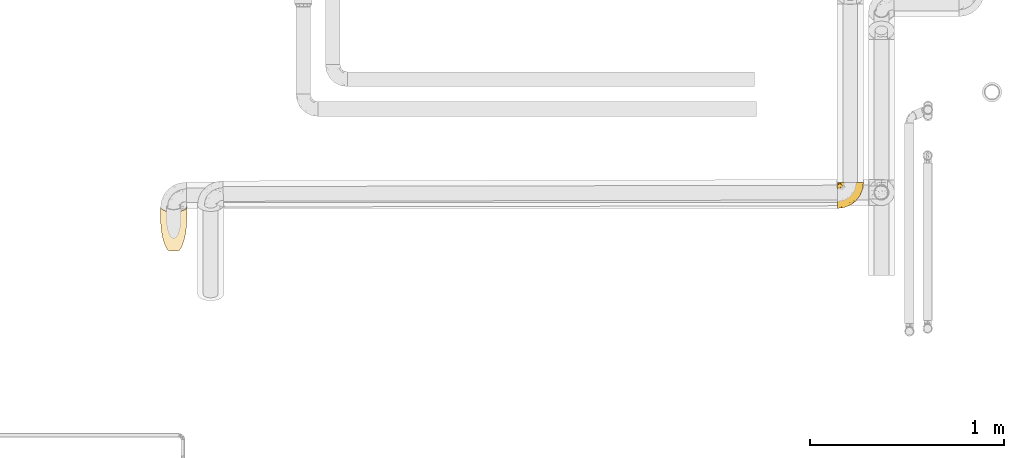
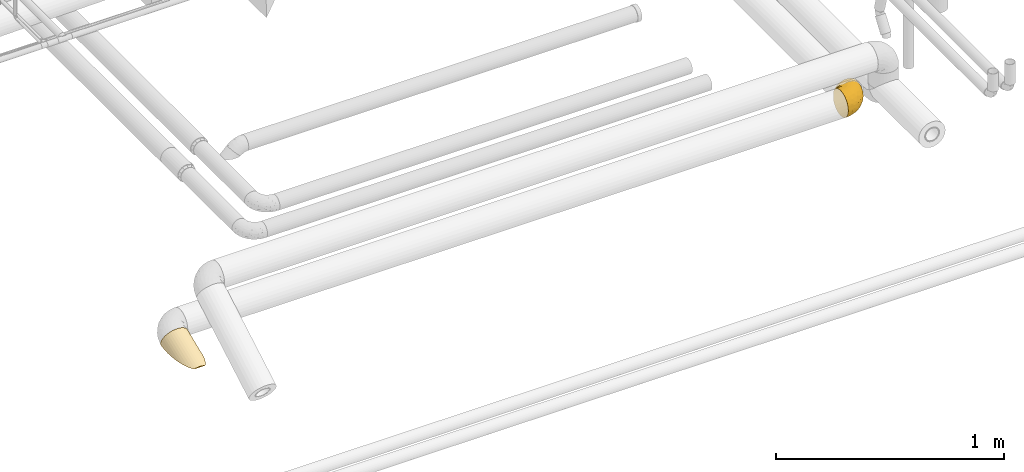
# One storey, part 19 of 156: 2 coverings.
"""IFC2X3 building model written with IfcOpenShell, lengths in millimetres."""

from ifc_helpers import new_model, entity, si_unit, converted_unit, derived_unit, direction, frame, origin_with_axes, place, context, subcontext, project, spatial, open_shell, faceted_brep, surface_model, source, transform, mapped, element, save


model = new_model("IFC2X3")

# Units and contexts
model_context = context("Model", 3, precision=0.01, world=frame((0.0, 4.29681676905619e-09, 0.0)), true_north=direction((4.01073788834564e-13, 1.0)))
plan_context = context("Plan", 3, precision=0.01, world=frame((0.0, 4.29681676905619e-09, 0.0)), true_north=direction((4.01073788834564e-13, 1.0)))
body_context = subcontext(model_context, "Body", "Model", "MODEL_VIEW")
ifc_project = project(units=[converted_unit("PLANEANGLEUNIT", "DEGREE", entity("IfcPositiveLengthMeasure", 0.0174532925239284), si_unit("PLANEANGLEUNIT", "RADIAN"), dimensions=[0, 0, 0, 0, 0, 0, 0]), si_unit("AREAUNIT", "SQUARE_METRE"), si_unit("LENGTHUNIT", "METRE", prefix="MILLI"), si_unit("MASSUNIT", "GRAM", prefix="KILO"), si_unit("POWERUNIT", "WATT"), si_unit("PRESSUREUNIT", "PASCAL", prefix="KILO"), si_unit("FORCEUNIT", "NEWTON", prefix="KILO"), si_unit("ELECTRICVOLTAGEUNIT", "VOLT"), si_unit("ELECTRICCURRENTUNIT", "AMPERE"), si_unit("THERMODYNAMICTEMPERATUREUNIT", "DEGREE_CELSIUS"), si_unit("TIMEUNIT", "SECOND"), si_unit("VOLUMEUNIT", "CUBIC_METRE"), derived_unit("LINEARVELOCITYUNIT", [(si_unit("LENGTHUNIT", "METRE"), 1), (si_unit("TIMEUNIT", "SECOND"), -1)]), derived_unit("VOLUMETRICFLOWRATEUNIT", [(si_unit("VOLUMEUNIT", "CUBIC_METRE"), 1), (si_unit("TIMEUNIT", "SECOND"), -1)]), derived_unit("THERMALTRANSMITTANCEUNIT", [(si_unit("POWERUNIT", "WATT"), 1), (si_unit("THERMODYNAMICTEMPERATUREUNIT", "KELVIN"), -1), (si_unit("AREAUNIT", "SQUARE_METRE"), -1)]), derived_unit("SOUNDPRESSUREUNIT", [(si_unit("PRESSUREUNIT", "PASCAL"), 1)])], contexts=[model_context, plan_context])

# Site, building, storey
site_placement = place(None, frame((0.0, -4.29681676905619e-09, 0.0), z_axis=(0.0, 0.0, 1.0), x_axis=(1.0, 0.0, 0.0)))
site = spatial("IfcSite", under=ifc_project, at=site_placement, CompositionType="ELEMENT")
building_placement = place(site_placement, frame((0.0, 4.29681676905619e-09, 0.0), z_axis=(0.0, 0.0, 1.0), x_axis=(1.0, 0.0, 0.0)))
building = spatial("IfcBuilding", under=site, at=building_placement, Name="mc-building", CompositionType="ELEMENT")
storey_placement = place(building_placement, frame((0.0, 0.0, 205200.0), z_axis=(0.0, 0.0, 1.0), x_axis=(1.0, 0.0, 0.0)))
storey = spatial("IfcBuildingStorey", under=building, at=storey_placement, Name="Nivå D + 1,2 m", CompositionType="ELEMENT", Elevation=205200.0)

# Coverings
shared_shape = source(origin_with_axes(), body_context, "Body", "SurfaceModel", [
    surface_model("IfcShellBasedSurfaceModel", [(13.1732, 65.0, 66.20209), (25.83774, 65.0, 62.35913), (37.50754, 65.0, 56.11983), (0.0, 65.0, 67.5), (62.36357, 65.0, 25.82703), (66.2036, 65.0, 13.1656), (47.7349, 65.0, 47.72452), (56.12755, 65.0, 37.49598), (66.20209, 65.0, -13.1732), (-64.81475, 65.0, -18.84935), (67.5, 65.0, 0.0), (56.11983, 65.0, -37.50754), (62.35913, 65.0, -25.83774), (47.72452, 65.0, -47.7349), (37.49598, 65.0, -56.12755), (25.82703, 65.0, -62.36357), (-40.52239, 65.0, -53.98321), (-51.09064, 65.0, -44.11345), (-59.31419, 65.0, -32.21921), (-65.0, 47.11836, -48.33333), (-65.0, 33.25277, -58.74099), (-65.0, 17.19351, -65.27353), (-65.0, -58.45672, -33.75), (-65.0, -17.47029, -65.19999), (-65.0, -33.75, -58.45672), (-65.0, -67.5, 0.0), (-65.0, -47.72971, -47.72971), (-65.0, -65.19999, -17.47029), (-65.0, -33.75, 58.45672), (-65.0, -47.72971, 47.72971), (-65.0, -17.47029, 65.19999), (-65.0, 0.0, 67.5), (-65.0, -58.45672, 33.75), (-65.0, -65.19999, 17.47029), (-65.0, 64.81475, -18.84935), (-65.0, 64.81475, 18.84935), (-64.86901, 64.86901, 18.84935), (-64.86901, 64.86901, -18.84935), (-64.81475, 65.0, 18.84935), (-62.35297, 53.22925, -41.88204), (-63.78423, 60.63473, -29.99667), (-59.45918, 54.28289, -41.88204), (-51.69965, 42.79725, -55.00915), (-58.92632, 41.28656, -53.98417), (-65.0, 57.87557, -34.73714), (-64.97489, 64.82515, -18.84935), (-60.99561, 60.00362, -33.50592), (-62.83434, 60.76841, -30.4404), (-64.90176, 64.85544, -18.84935), (-50.86682, 28.04405, -62.52499), (-57.92381, 24.04777, -63.29908), (-50.90167, 14.37918, -66.34141), (-37.08653, 31.39033, -64.04773), (-29.58182, 11.99295, -67.5), (-40.36853, 19.80167, -66.13096), (-55.46376, 1.89688, -67.5), (-54.1914, 53.04137, -46.55035), (-28.09443, 65.0, -61.37551), (-23.48796, 51.53459, -64.03169), (-35.44219, 58.51372, -57.87452), (-14.37712, 65.0, -65.95111), (0.0, 65.0, -67.5), (-1.89688, 55.46376, -67.5), (-19.03806, 19.03806, -67.5), (-28.84083, 40.49015, -64.04563), (-45.93357, 58.13982, -50.54557), (-64.83555, 64.94978, -18.84935), (-43.55475, 44.96694, -57.31565), (-4.94783, 40.12558, -67.5), (-64.85228, 64.9094, -18.84935), (-55.95504, 62.1673, -38.38718), (-59.35288, 60.73167, -34.6609), (-37.17686, 51.38247, -58.29815), (-49.05026, 54.8073, -49.33215), (-11.99295, 29.58182, -67.5), (-64.9345, 64.84188, -18.84935), (-40.12558, 4.94783, -67.5), (-65.0, 0.0, -67.5), (-52.74634, 2.4374, -67.5), (-42.51157, -9.52295, -66.2671), (62.98517, 30.70648, 0.0), (60.34861, 32.11006, -19.59988), (7.28209, 26.69247, -65.37446), (17.51571, 46.37925, -64.59456), (25.45053, 30.47784, -59.53215), (-9.86721, -24.12514, -54.51842), (-12.17277, -41.13061, -41.0914), (-38.26551, -37.66767, -53.55135), (-32.07934, -19.65533, -62.36187), (-9.01246, -1.18966, -63.9192), (38.39188, 36.73619, -52.6938), (30.43395, 48.7077, -59.53215), (-49.4847, -21.90434, -63.359), (28.69165, -28.69165, 0.0), (38.50326, -14.42084, -16.45739), (49.74837, -1.25, 0.0), (13.1656, 65.0, -66.2036), (-26.34544, -2.34013, -66.30486), (-28.9987, -57.16772, -25.83113), (-40.01142, -50.88785, -41.0914), (-40.23864, -63.93244, -12.73067), (13.27406, -37.00874, -22.67012), (18.34903, -3.39087, -52.18245), (35.48999, 13.46262, -47.52341), (28.03747, -10.89182, -39.04005), (-2.47392, 52.56279, -67.5), (13.31742, 11.06376, -60.42055), (48.33699, 35.26235, -42.82742), (1.25, -49.74837, 0.0), (55.58243, 33.90777, -31.82524), (47.1962, 10.97433, -31.82591), (10.54857, -30.74404, -36.21718), (1.99991, -27.22627, -46.43081), (-14.75381, -56.30503, -12.67322), (-7.01775, -49.35414, -23.6696), (51.32465, 7.6704, -19.29111), (-30.70648, -62.98517, 0.0), (0.244, 12.31909, -64.81242), (3.6701, -5.45972, -58.66435), (36.98055, -9.37937, -28.42458), (48.52829, 33.96524, 42.18547), (51.34601, 20.59434, 31.81466), (57.75615, 44.0433, 31.81466), (-28.34115, -60.77084, 14.13005), (-16.26073, -52.66703, 25.83113), (-42.88385, -60.42696, 25.83113), (37.5083, -13.65738, 20.81995), (22.2387, 22.99208, 59.52614), (16.82988, 43.52884, 64.59175), (5.27267, 25.31169, 65.6474), (35.12366, 13.6505, 47.93511), (15.62004, -0.76277, 55.06473), (25.58961, -9.33201, 42.81638), (-34.31666, -49.51181, 41.0914), (-2.14331, -36.32511, 40.18049), (-17.725, -29.97609, 53.55135), (-5.8464, -51.68872, 14.94009), (14.49533, -38.60032, 15.96281), (39.0394, -2.37839, 32.87761), (-42.65822, -9.03699, 66.36346), (-39.32482, -22.1268, 62.36187), (-52.74634, 2.4374, 67.5), (18.51015, -28.28032, 30.53115), (-42.63776, -38.70783, 53.55135), (52.44199, 9.85636, 19.0918), (61.41574, 36.47263, 19.59063), (39.29703, 37.63428, 52.17338), (28.75854, 40.82432, 59.5265), (-0.80851, -10.86712, 58.08848), (-25.06949, -14.2506, 63.18685), (-6.08758, 12.63645, 66.07007), (-29.58182, 11.99295, 67.5), (-27.583, -2.4399, 66.40218), (-40.12558, 4.94783, 67.5), (-2.47392, 52.56279, 67.5), (-4.94783, 40.12558, 67.5), (8.13231, 9.85971, 62.04196), (4.6081, -20.53967, 50.05704), (-11.99295, 29.58182, 67.5), (-19.03806, 19.03806, 67.5), (-12.13012, -4.71198, 63.64217), (-65.0, 17.19351, 65.27353), (-55.46376, 1.89688, 67.5), (-51.31051, 50.10809, 50.51452), (-58.83063, 56.06256, 40.31262), (-53.07544, 43.62194, 53.98417), (-61.39668, 53.48595, 41.88204), (-59.33203, 41.18634, 53.98417), (-65.0, 47.11836, 48.33333), (-65.0, 33.25277, 58.74099), (-38.67692, 30.21324, 64.02579), (-40.80843, 18.77841, 66.26938), (-53.18292, 27.23963, 62.52499), (-62.39323, 61.71268, 29.30964), (-62.71992, 60.35042, 31.2673), (-24.35909, 37.3903, 65.60842), (-55.876, 57.84764, 41.27918), (-48.33586, 52.86998, 50.85179), (-52.15697, 58.33043, 44.75633), (-65.0, 57.87557, 34.73714), (-50.72259, 13.73618, 66.46323), (-63.72097, 60.14876, 30.95628), (-23.37818, 51.86775, 64.03271), (-1.89688, 55.46376, 67.5), (-14.37401, 65.0, 65.95178), (-38.9734, 49.10623, 58.01476), (-28.09151, 65.0, 61.37685), (-40.51981, 65.0, 53.98514), (-36.16929, 55.0609, 58.01476), (-61.49541, 62.05581, 30.08872), (-64.85228, 64.9094, 18.84935), (-46.94651, 59.30387, 49.33434), (-59.31267, 65.0, 32.22201), (-64.83555, 64.94978, 18.84935), (-57.76525, 62.98421, 35.37213), (-51.08854, 65.0, 44.11588), (-59.8704, 62.17048, 32.53464), (-45.47025, 40.87928, 58.33251), (-64.9094, 64.85228, 18.84935), (-64.94978, 64.83555, 18.84935)], [open_shell([[[0, 1, 2]], [[3, 0, 2]], [[4, 5, 6]], [[6, 7, 4]], [[8, 9, 10]], [[11, 8, 12]], [[8, 13, 9]], [[14, 15, 13]], [[13, 8, 11]], [[16, 17, 9]], [[18, 9, 17]], [[10, 9, 5]], [[19, 20, 21]], [[22, 23, 24]], [[23, 22, 25]], [[22, 24, 26]], [[27, 25, 22]], [[28, 25, 29]], [[30, 31, 28]], [[32, 25, 33]], [[25, 32, 29]], [[34, 35, 36]], [[37, 34, 36]], [[38, 9, 36]], [[37, 36, 9]], [[39, 40, 41]], [[42, 43, 41]], [[44, 34, 45]], [[39, 43, 19]], [[46, 47, 48]], [[43, 49, 50]], [[21, 50, 51]], [[52, 53, 54]], [[51, 50, 49]], [[21, 51, 55]], [[41, 56, 42]], [[57, 58, 59]], [[44, 39, 19]], [[60, 61, 62]], [[63, 52, 64]], [[65, 16, 59]], [[16, 65, 17]], [[43, 20, 19]], [[43, 42, 49]], [[66, 9, 18]], [[46, 56, 41]], [[52, 67, 64]], [[68, 58, 62]], [[69, 70, 71]], [[18, 70, 66]], [[60, 62, 58]], [[60, 58, 57]], [[51, 49, 54]], [[58, 72, 59]], [[18, 17, 70]], [[71, 73, 56]], [[42, 52, 49]], [[67, 42, 56]], [[72, 67, 73]], [[45, 40, 44]], [[43, 39, 41]], [[56, 46, 71]], [[67, 56, 73]], [[69, 66, 70]], [[70, 73, 71]], [[64, 72, 58]], [[42, 67, 52]], [[64, 68, 74]], [[40, 45, 75]], [[55, 51, 76]], [[55, 77, 21]], [[54, 49, 52]], [[71, 37, 69]], [[76, 51, 54]], [[47, 41, 40]], [[37, 71, 46]], [[67, 72, 64]], [[65, 59, 72]], [[72, 73, 65]], [[57, 59, 16]], [[73, 70, 65]], [[17, 65, 70]], [[40, 75, 47]], [[44, 40, 39]], [[48, 37, 46]], [[46, 41, 47]], [[47, 75, 48]], [[21, 20, 50]], [[43, 50, 20]], [[53, 52, 63]], [[53, 76, 54]], [[68, 64, 58]], [[74, 63, 64]], [[78, 79, 23]], [[78, 76, 79]], [[8, 80, 81]], [[82, 83, 84]], [[85, 86, 87]], [[85, 88, 89]], [[90, 84, 91]], [[79, 92, 23]], [[93, 94, 95]], [[15, 83, 96]], [[63, 89, 97]], [[12, 8, 81]], [[98, 22, 99]], [[27, 100, 25]], [[94, 93, 101]], [[22, 98, 27]], [[22, 26, 99]], [[24, 87, 26]], [[92, 87, 24]], [[102, 103, 104]], [[61, 96, 105]], [[84, 103, 106]], [[13, 11, 107]], [[90, 13, 107]], [[93, 108, 101]], [[109, 81, 110]], [[91, 83, 15]], [[96, 83, 105]], [[111, 86, 112]], [[113, 100, 98]], [[101, 108, 113]], [[114, 86, 111]], [[95, 94, 115]], [[113, 108, 116]], [[90, 103, 84]], [[115, 80, 95]], [[12, 109, 11]], [[117, 118, 89]], [[8, 10, 80]], [[107, 109, 110]], [[102, 106, 103]], [[82, 68, 83]], [[85, 87, 88]], [[14, 91, 15]], [[99, 87, 86]], [[117, 74, 82]], [[101, 111, 119]], [[81, 115, 110]], [[97, 88, 79]], [[112, 104, 111]], [[82, 106, 117]], [[106, 82, 84]], [[14, 13, 90]], [[83, 91, 84]], [[90, 91, 14]], [[90, 107, 103]], [[107, 110, 103]], [[104, 103, 110]], [[119, 104, 110]], [[104, 119, 111]], [[87, 99, 26]], [[98, 99, 86]], [[23, 77, 78]], [[97, 79, 76]], [[79, 88, 92]], [[97, 76, 53]], [[88, 97, 89]], [[87, 92, 88]], [[24, 23, 92]], [[118, 106, 102]], [[106, 118, 117]], [[100, 113, 116]], [[114, 113, 98]], [[25, 100, 116]], [[98, 100, 27]], [[112, 118, 102]], [[63, 97, 53]], [[85, 89, 118]], [[89, 63, 117]], [[115, 81, 80]], [[86, 114, 98]], [[101, 113, 114]], [[11, 109, 107]], [[12, 81, 109]], [[83, 68, 105]], [[74, 117, 63]], [[74, 68, 82]], [[119, 115, 94]], [[115, 119, 110]], [[101, 119, 94]], [[114, 111, 101]], [[112, 86, 85]], [[118, 112, 85]], [[104, 112, 102]], [[120, 121, 122]], [[25, 116, 123]], [[123, 124, 125]], [[95, 126, 93]], [[127, 128, 129]], [[130, 131, 132]], [[133, 134, 135]], [[136, 137, 124]], [[132, 138, 130]], [[108, 93, 137]], [[139, 30, 140]], [[30, 139, 141]], [[142, 137, 126]], [[143, 140, 28]], [[28, 29, 143]], [[125, 32, 33]], [[130, 138, 121]], [[32, 125, 133]], [[28, 140, 30]], [[93, 126, 137]], [[121, 144, 145]], [[143, 133, 135]], [[120, 6, 146]], [[138, 126, 144]], [[5, 4, 145]], [[6, 2, 146]], [[128, 1, 0]], [[145, 4, 122]], [[10, 5, 80]], [[1, 147, 2]], [[148, 149, 135]], [[32, 133, 29]], [[150, 151, 152]], [[128, 127, 147]], [[153, 139, 152]], [[130, 121, 120]], [[0, 154, 128]], [[144, 80, 145]], [[129, 128, 155]], [[147, 127, 146]], [[80, 5, 145]], [[138, 144, 121]], [[131, 127, 156]], [[7, 122, 4]], [[134, 133, 124]], [[135, 134, 157]], [[142, 132, 134]], [[136, 124, 123]], [[142, 124, 137]], [[157, 132, 131]], [[7, 6, 120]], [[145, 122, 121]], [[120, 122, 7]], [[120, 146, 130]], [[146, 127, 130]], [[131, 130, 127]], [[156, 127, 129]], [[148, 135, 157]], [[150, 158, 159]], [[129, 150, 156]], [[133, 143, 29]], [[140, 143, 135]], [[141, 139, 153]], [[141, 31, 30]], [[152, 149, 160]], [[149, 139, 140]], [[152, 160, 150]], [[126, 95, 144]], [[151, 153, 152]], [[80, 144, 95]], [[142, 126, 138]], [[124, 142, 134]], [[139, 149, 152]], [[135, 149, 140]], [[33, 25, 123]], [[133, 125, 124]], [[33, 123, 125]], [[136, 116, 108]], [[116, 136, 123]], [[108, 137, 136]], [[158, 150, 129]], [[148, 156, 160]], [[150, 159, 151]], [[160, 156, 150]], [[132, 157, 134]], [[148, 157, 131]], [[156, 148, 131]], [[148, 160, 149]], [[2, 147, 146]], [[1, 128, 147]], [[154, 0, 3]], [[154, 155, 128]], [[142, 138, 132]], [[129, 155, 158]], [[161, 31, 162]], [[163, 164, 165]], [[165, 166, 167]], [[167, 168, 169]], [[170, 171, 151]], [[170, 165, 172]], [[164, 173, 174]], [[175, 170, 159]], [[167, 169, 172]], [[176, 177, 178]], [[164, 166, 165]], [[166, 179, 168]], [[172, 180, 171]], [[181, 166, 174]], [[182, 183, 184]], [[185, 178, 177]], [[186, 187, 188]], [[36, 189, 190]], [[175, 182, 185]], [[188, 187, 191]], [[192, 38, 193]], [[182, 175, 155]], [[169, 161, 172]], [[194, 195, 192]], [[184, 183, 3]], [[191, 187, 195]], [[163, 176, 164]], [[185, 182, 188]], [[189, 176, 196]], [[186, 182, 184]], [[180, 162, 153]], [[35, 179, 181]], [[185, 177, 197]], [[165, 167, 172]], [[155, 183, 182]], [[166, 168, 167]], [[175, 185, 197]], [[175, 159, 158]], [[36, 173, 189]], [[173, 176, 189]], [[171, 180, 153]], [[162, 180, 161]], [[161, 180, 172]], [[151, 159, 170]], [[172, 171, 170]], [[171, 153, 151]], [[197, 163, 165]], [[177, 176, 163]], [[165, 170, 197]], [[197, 170, 175]], [[197, 177, 163]], [[178, 185, 191]], [[194, 178, 191]], [[196, 193, 190]], [[195, 194, 191]], [[192, 193, 194]], [[176, 178, 196]], [[178, 194, 196]], [[193, 196, 194]], [[190, 189, 196]], [[173, 164, 176]], [[36, 198, 173]], [[199, 181, 174]], [[174, 173, 198]], [[199, 174, 198]], [[166, 164, 174]], [[35, 181, 199]], [[179, 166, 181]], [[188, 182, 186]], [[191, 185, 188]], [[155, 175, 158]], [[5, 2, 6]], [[192, 9, 38]], [[15, 96, 13]], [[35, 168, 179]], [[168, 161, 169]], [[184, 187, 186]], [[21, 23, 31]], [[23, 21, 77]], [[3, 2, 5]], [[184, 3, 5]], [[195, 187, 192]], [[9, 192, 187]], [[184, 9, 187]], [[9, 184, 5]], [[16, 9, 60]], [[96, 61, 60]], [[57, 16, 60]], [[60, 9, 96]], [[9, 13, 96]], [[35, 34, 44]], [[35, 44, 19]], [[35, 19, 21]], [[35, 21, 168]], [[21, 161, 168]], [[21, 31, 161]], [[23, 25, 31]], [[25, 28, 31]]])]),
])
covering_1_placement = place(storey_placement, frame((329697.42979, 460512.28647, 4048.81464), z_axis=(0.0, -0.00259999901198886, 0.999996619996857), x_axis=(1.0, 0.0, 0.0)))
element("IfcCovering", 1, at=covering_1_placement, inside=storey, Name="BI10T - Cellegummi 18-32 mm kalde rør", PredefinedType="INSULATION", context=body_context, shape_type="MappedRepresentation", body=[
    mapped(shared_shape, transform((0.0, 0.0, 0.0), scale=1.0)),
])
covering_2_placement = place(storey_placement, frame((326217.42979, 460251.23866, 3943.34448), z_axis=(0.0, -0.37460689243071, 0.927183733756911), x_axis=(0.0, 0.927183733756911, 0.37460689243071)))
element("IfcCovering", 2, at=covering_2_placement, inside=storey, Name="BI10T - Cellegummi 18-32 mm kalde rør", PredefinedType="INSULATION", context=body_context, shape_type="Brep", body=[
    faceted_brep([(165.208231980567, 32.0062519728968, -5.64356577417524), (151.239929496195, 32.5, 0.0), (216.5, 32.5, 0.0), (216.5, 32.0062519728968, -5.64356577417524), (178.752114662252, 30.540010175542, -11.1156546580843), (216.5, 30.540010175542, -11.1156546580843), (191.460053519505, 28.1458256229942, -16.25), (216.5, 28.1458256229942, -16.25), (202.945924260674, 24.8964444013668, -20.8905973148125), (216.5, 24.8964444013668, -20.8905973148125), (212.86073451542, 20.8905973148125, -24.8964444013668), (216.5, 20.8905973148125, -24.8964444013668), (216.5, 18.7907055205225, -26.3668044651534), (212.86073451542, -20.8905973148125, -24.8964444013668), (216.5, -18.7907055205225, -26.3668044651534), (216.5, -20.8905973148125, -24.8964444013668), (202.945924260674, -24.8964444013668, -20.8905973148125), (216.5, -24.8964444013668, -20.8905973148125), (191.460053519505, -28.1458256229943, -16.25), (216.5, -28.1458256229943, -16.25), (178.752114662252, -30.540010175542, -11.1156546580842), (216.5, -30.540010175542, -11.1156546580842), (165.208231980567, -32.0062519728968, -5.64356577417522), (216.5, -32.0062519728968, -5.64356577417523), (151.239929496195, -32.5, 3.9801020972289e-15), (216.5, -32.5, 3.9801020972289e-15), (137.271627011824, -32.0062519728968, 5.64356577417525), (216.5, -32.0062519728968, 5.64356577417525), (123.727744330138, -30.540010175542, 11.1156546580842), (216.5, -30.540010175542, 11.1156546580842), (111.019805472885, -28.1458256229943, 16.25), (216.5, -28.1458256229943, 16.25), (99.5339347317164, -24.8964444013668, 20.8905973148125), (216.5, -24.8964444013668, 20.8905973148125), (89.6191244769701, -20.8905973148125, 24.8964444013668), (216.5, -20.8905973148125, 24.8964444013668), (81.5766312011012, -16.25, 28.1458256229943), (216.5, -16.25, 28.1458256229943), (75.6508219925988, -11.1156546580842, 30.540010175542), (216.5, -11.1156546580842, 30.540010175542), (72.0217495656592, -5.64356577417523, 32.0062519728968), (216.5, -5.64356577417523, 32.0062519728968), (70.7996814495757, 1.99005104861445e-15, 32.5), (216.5, 1.99005104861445e-15, 32.5), (72.0217495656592, 5.64356577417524, 32.0062519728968), (216.5, 5.64356577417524, 32.0062519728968), (75.6508219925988, 11.1156546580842, 30.540010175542), (216.5, 11.1156546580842, 30.540010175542), (81.5766312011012, 16.25, 28.1458256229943), (216.5, 16.25, 28.1458256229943), (89.6191244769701, 20.8905973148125, 24.8964444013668), (216.5, 20.8905973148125, 24.8964444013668), (99.5339347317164, 24.8964444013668, 20.8905973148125), (216.5, 24.8964444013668, 20.8905973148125), (111.019805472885, 28.1458256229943, 16.25), (216.5, 28.1458256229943, 16.25), (123.727744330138, 30.540010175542, 11.1156546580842), (216.5, 30.540010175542, 11.1156546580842), (137.271627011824, 32.0062519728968, 5.64356577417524), (216.5, 32.0062519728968, 5.64356577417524), (151.239929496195, 67.5, 0.0), (180.251019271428, 66.474523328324, -11.7212519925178), (216.5, 66.474523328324, -11.7212519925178), (216.5, 67.5, 0.0), (122.228839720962, 66.474523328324, 11.7212519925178), (216.5, 66.474523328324, 11.7212519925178), (94.0992372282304, 63.4292519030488, 23.0863596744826), (216.5, 63.4292519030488, 23.0863596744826), (67.705825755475, 58.4567147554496, 33.75), (216.5, 58.4567147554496, 33.75), (43.8505557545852, 51.707999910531, 43.3881636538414), (216.5, 51.707999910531, 43.3881636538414), (23.2582575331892, 43.3881636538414, 51.707999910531), (216.5, 43.3881636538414, 51.707999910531), (6.55461765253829, 33.75, 58.4567147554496), (216.5, 33.75, 58.4567147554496), (0.0, 28.0708312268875, 61.1049546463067), (216.5, 23.0863596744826, 63.4292519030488), (0.0, 23.0863596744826, 63.4292519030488), (216.5, 11.7212519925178, 66.474523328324), (0.0, 11.7212519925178, 66.474523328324), (216.5, 4.13318294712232e-15, 67.5), (0.0, 4.13318294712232e-15, 67.5), (216.5, -11.7212519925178, 66.474523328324), (0.0, -11.7212519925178, 66.474523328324), (216.5, -23.0863596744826, 63.4292519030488), (0.0, -23.0863596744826, 63.4292519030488), (6.55461765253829, -33.75, 58.4567147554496), (0.0, -28.0708312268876, 61.1049546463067), (216.5, -33.75, 58.4567147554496), (23.2582575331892, -43.3881636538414, 51.707999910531), (216.5, -43.3881636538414, 51.707999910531), (43.8505557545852, -51.707999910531, 43.3881636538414), (216.5, -51.707999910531, 43.3881636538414), (67.705825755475, -58.4567147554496, 33.75), (216.5, -58.4567147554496, 33.75), (94.0992372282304, -63.4292519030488, 23.0863596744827), (216.5, -63.4292519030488, 23.0863596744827), (122.228839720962, -66.474523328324, 11.7212519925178), (216.5, -66.474523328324, 11.7212519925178), (151.239929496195, -67.5, 8.26636589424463e-15), (216.5, -67.5, 8.26636589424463e-15), (180.251019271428, -66.4745233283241, -11.7212519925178), (216.5, -66.4745233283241, -11.7212519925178), (208.38062176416, -63.4292519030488, -23.0863596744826), (216.5, -63.4292519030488, -23.0863596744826), (216.5, -61.8995553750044, -26.3668044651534), (208.38062176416, 63.4292519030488, -23.0863596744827), (216.5, 61.8995553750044, -26.3668044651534), (216.5, 63.4292519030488, -23.0863596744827)], [[[0, 1, 2, 3]], [[4, 0, 3, 5]], [[6, 4, 5, 7]], [[8, 6, 7, 9]], [[10, 8, 9, 11]], [[12, 10, 11]], [[13, 14, 15]], [[16, 13, 15, 17]], [[18, 16, 17, 19]], [[20, 18, 19, 21]], [[22, 20, 21, 23]], [[24, 22, 23, 25]], [[26, 24, 25, 27]], [[28, 26, 27, 29]], [[30, 28, 29, 31]], [[32, 30, 31, 33]], [[34, 32, 33, 35]], [[36, 34, 35, 37]], [[38, 36, 37, 39]], [[40, 38, 39, 41]], [[42, 40, 41, 43]], [[44, 42, 43, 45]], [[46, 44, 45, 47]], [[48, 46, 47, 49]], [[50, 48, 49, 51]], [[52, 50, 51, 53]], [[54, 52, 53, 55]], [[56, 54, 55, 57]], [[58, 56, 57, 59]], [[1, 58, 59, 2]], [[60, 61, 62, 63]], [[64, 60, 63, 65]], [[66, 64, 65, 67]], [[68, 66, 67, 69]], [[70, 68, 69, 71]], [[72, 70, 71, 73]], [[74, 72, 73, 75]], [[76, 74, 75, 77, 78]], [[78, 77, 79, 80]], [[80, 79, 81, 82]], [[82, 81, 83, 84]], [[84, 83, 85, 86]], [[87, 88, 86, 85, 89]], [[90, 87, 89, 91]], [[92, 90, 91, 93]], [[94, 92, 93, 95]], [[96, 94, 95, 97]], [[98, 96, 97, 99]], [[100, 98, 99, 101]], [[102, 100, 101, 103]], [[104, 102, 103, 105]], [[106, 104, 105]], [[107, 108, 109]], [[61, 107, 109, 62]], [[88, 76, 78, 80, 82, 84, 86]], [[108, 12, 11, 9, 7, 5, 3, 2, 59, 57, 55, 53, 51, 49, 47, 45, 43, 41, 39, 37, 35, 33, 31, 29, 27, 25, 23, 21, 19, 17, 15, 14, 106, 105, 103, 101, 99, 97, 95, 93, 91, 89, 85, 83, 81, 79, 77, 75, 73, 71, 69, 67, 65, 63, 62, 109]], [[4, 6, 8, 10, 12, 108, 107, 61, 60, 64, 66, 68, 70, 72, 74, 76, 88, 87, 90, 92, 94, 96, 98, 100, 102, 104, 106, 14, 13, 16, 18, 20, 22, 24, 26, 28, 30, 32, 34, 36, 38, 40, 42, 44, 46, 48, 50, 52, 54, 56, 58, 1, 0]]], orient=[[False], [False], [False], [False], [False], [False], [False], [False], [False], [False], [False], [False], [False], [False], [False], [False], [False], [False], [False], [False], [False], [False], [False], [False], [False], [False], [False], [False], [False], [False], [False], [False], [False], [False], [False], [False], [False], [False], [False], [False], [False], [False], [False], [False], [False], [False], [False], [False], [False], [False], [False], [False], [False], [False], [False], [False], [False]]),
])

save(model, "model.ifc")
